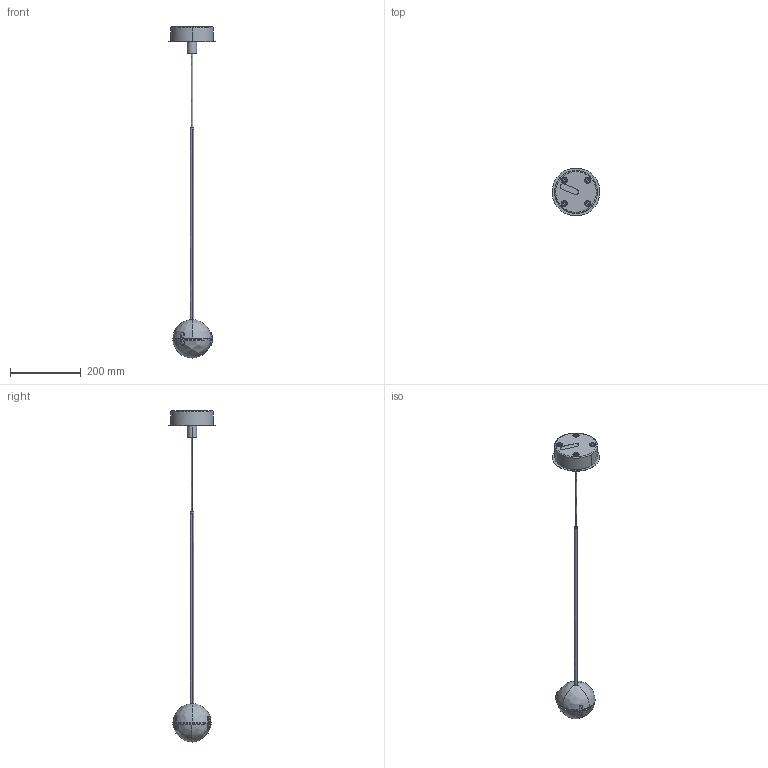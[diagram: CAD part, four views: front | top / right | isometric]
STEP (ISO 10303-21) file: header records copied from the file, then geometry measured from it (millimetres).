
FILE_DESCRIPTION(/* description */ (''),/* implementation_level */ '2;1');
FILE_NAME(/* name */ 'CINI&N~1',/* time_stamp */ '2016-09-01T17:43:08+02:00',/* author */ (''),/* organization */ (''),/* preprocessor_version */ 'ST-DEVELOPER v15',/* originating_system */ '',/* authorisation */ '');
FILE_SCHEMA (('CONFIG_CONTROL_DESIGN'));
Length unit declared in the file: millimetre
Products named in the file (3): CONVIVIO_NEW_LED_SOPRATAVOLO_ASM; CONVIVIO_NEW_LED_SOPRATAVOLO; Blocco 01
Assembly tree (2 placements, depth 3):
  CONVIVIO_NEW_LED_SOPRATAVOLO_ASM
    CONVIVIO_NEW_LED_SOPRATAVOLO
      Blocco 01
Bounding box: 135 x 134.72 x 938.78 mm (x, y, z)
Surface area: 109414.5 mm2
Topology: 3 solids, 4 shells, 185 faces, 475 edges, 291 vertices
Faces by surface type: bspline 136, plane 49
Entity records: 11165 total; most frequent: CARTESIAN_POINT 8244, ORIENTED_EDGE 908, EDGE_CURVE 463, VERTEX_POINT 291, B_SPLINE_CURVE_WITH_KNOTS 230, EDGE_LOOP 199, ADVANCED_FACE 185, FACE_OUTER_BOUND 185
